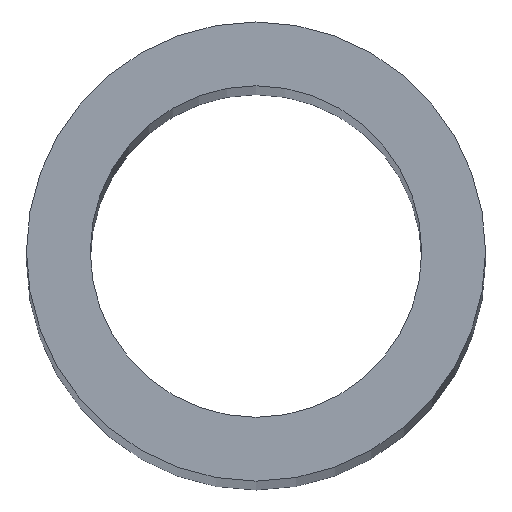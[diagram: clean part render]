
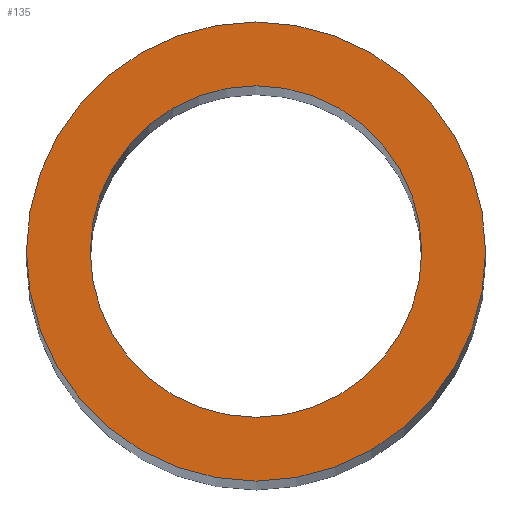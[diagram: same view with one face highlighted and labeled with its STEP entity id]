
A CAD part, top view. The second image highlights one B-rep face of the part: STEP entity #135.
In plain terms, the highlighted planar face has unit normal (0, 0, 1).
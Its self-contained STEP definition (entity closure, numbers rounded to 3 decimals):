
#73=CARTESIAN_POINT('',(6.5,0.,200.0));
#74=VERTEX_POINT('',#73);
#75=CARTESIAN_POINT('',(0.0,0.0,200.0));
#76=DIRECTION('',(0.0,0.0,-1.0));
#77=DIRECTION('',(-1.0,0.0,0.0));
#78=AXIS2_PLACEMENT_3D('',#75,#76,#77);
#79=CIRCLE('',#78,6.5);
#80=EDGE_CURVE('',#74,#74,#79,.T.);
#101=CARTESIAN_POINT('',(9.0,0.,200.0));
#102=VERTEX_POINT('',#101);
#103=CARTESIAN_POINT('',(0.0,0.0,200.0));
#104=DIRECTION('',(0.0,0.0,-1.0));
#105=DIRECTION('',(-1.0,0.0,0.0));
#106=AXIS2_PLACEMENT_3D('',#103,#104,#105);
#107=CIRCLE('',#106,9.0);
#108=EDGE_CURVE('',#102,#102,#107,.T.);
#124=CARTESIAN_POINT('',(0.0,0.0,200.0));
#125=DIRECTION('',(0.0,0.0,-1.0));
#126=DIRECTION('',(-1.0,0.0,0.0));
#127=AXIS2_PLACEMENT_3D('',#124,#125,#126);
#128=PLANE('',#127);
#129=ORIENTED_EDGE('',*,*,#108,.F.);
#130=EDGE_LOOP('',(#129));
#131=FACE_OUTER_BOUND('',#130,.T.);
#132=ORIENTED_EDGE('',*,*,#80,.T.);
#133=EDGE_LOOP('',(#132));
#134=FACE_BOUND('',#133,.T.);
#135=ADVANCED_FACE('',(#131,#134),#128,.F.);
